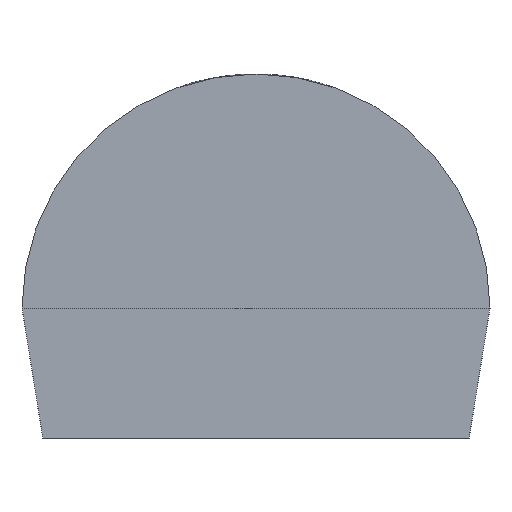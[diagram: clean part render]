
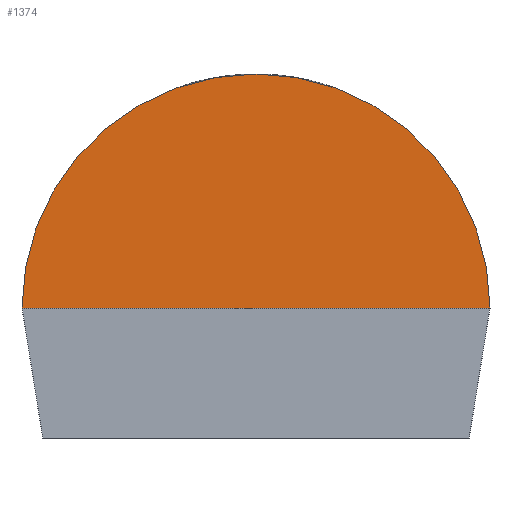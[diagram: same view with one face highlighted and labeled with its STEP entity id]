
A CAD part, left-side view. The second image highlights one B-rep face of the part: STEP entity #1374.
In plain terms, the highlighted planar face has unit normal (-1, 0, 0).
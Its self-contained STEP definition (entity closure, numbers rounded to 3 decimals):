
#1317=CARTESIAN_POINT('',(-0.,4.5,0.));
#1318=VERTEX_POINT('',#1317);
#1325=CARTESIAN_POINT('',(0.,0.,0.));
#1326=VERTEX_POINT('',#1325);
#1327=CARTESIAN_POINT('',(0.,2.25,0.));
#1328=DIRECTION('',(1.,0.,0.));
#1329=DIRECTION('',(-0.,1.,0.));
#1330=AXIS2_PLACEMENT_3D('',#1327,#1328,#1329);
#1331=CIRCLE('',#1330,2.25);
#1332=EDGE_CURVE('',#1318,#1326,#1331,.T.);
#1355=CARTESIAN_POINT('',(0.,0.,0.));
#1356=DIRECTION('',(-0.,1.,0.));
#1357=VECTOR('',#1356,4.5);
#1358=LINE('',#1355,#1357);
#1359=EDGE_CURVE('',#1326,#1318,#1358,.T.);
#1365=CARTESIAN_POINT('',(0.,0.,0.));
#1366=DIRECTION('',(1.,0.,0.));
#1367=DIRECTION('',(-0.,1.,0.));
#1368=AXIS2_PLACEMENT_3D('',#1365,#1366,#1367);
#1369=PLANE('',#1368);
#1370=ORIENTED_EDGE('',*,*,#1332,.F.);
#1371=ORIENTED_EDGE('',*,*,#1359,.F.);
#1372=EDGE_LOOP('',(#1370,#1371));
#1373=FACE_BOUND('',#1372,.T.);
#1374=ADVANCED_FACE('',(#1373),#1369,.F.);
